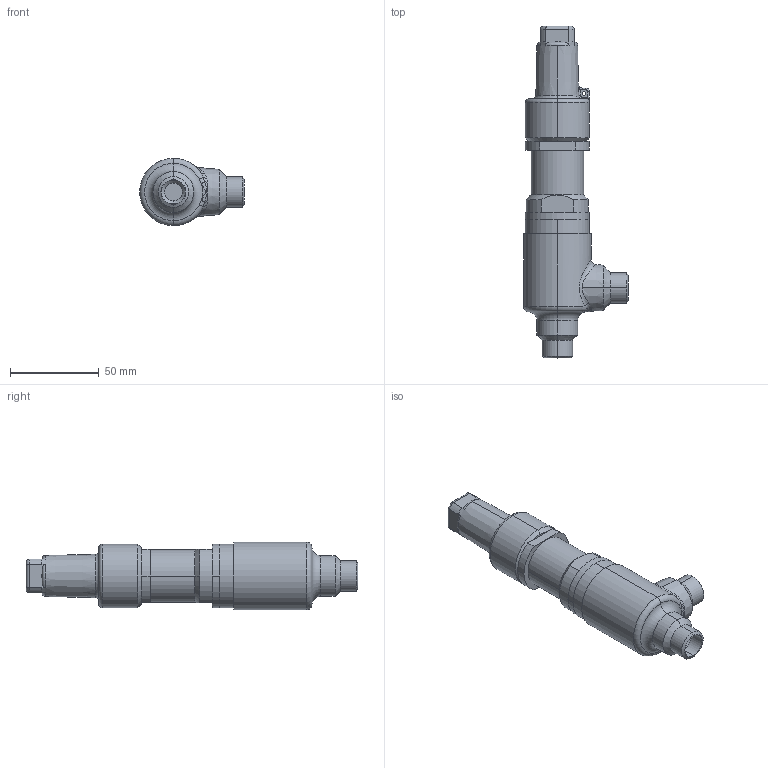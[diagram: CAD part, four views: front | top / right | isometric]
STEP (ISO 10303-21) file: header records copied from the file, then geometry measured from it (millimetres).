
FILE_DESCRIPTION (( 'STEP AP214' ), '1' );
FILE_NAME ('UVUB 42400C08-DN10-10_R1.STEP', '2010-09-10T08:02:11', ( 'Eckhard Grams' ), ( 'AWP Kälte Klima Armaturen GmbH' ), 'SwSTEP 2.0', 'SolidWorks 2002296', '' );
FILE_SCHEMA (( 'AUTOMOTIVE_DESIGN' ));
Length unit declared in the file: millimetre
Products named in the file (6): UVUB 42400C08-DN10-10_R1; Deckel 44551-07-DN 8-15_PS40_Standard; Gehäuse42200E08-DN10-10_PS40_R1_Standard; Klemmring 44551-07-DN 8-15_Standard; Einstellschr 44551-07-8080002_DN 8-15_Standard; Kappe 36302-10_DN6-15 (M27x1)_Standard
Assembly tree (5 placements, depth 2):
  UVUB 42400C08-DN10-10_R1
    Einstellschr 44551-07-8080002_DN 8-15_Standard
    Gehäuse42200E08-DN10-10_PS40_R1_Standard
    Klemmring 44551-07-DN 8-15_Standard
    Kappe 36302-10_DN6-15 (M27x1)_Standard
    Deckel 44551-07-DN 8-15_PS40_Standard
Bounding box: 59 x 187 x 38 mm (x, y, z)
Volume: 110876.8 mm3; surface area: 45947.8 mm2
Topology: 5 solids, 5 shells, 227 faces, 502 edges, 299 vertices
Faces by surface type: cylinder 92, plane 49, cone 39, torus 28, bspline 19
Entity records: 19864 total; most frequent: CARTESIAN_POINT 13948, DIRECTION 1121, ORIENTED_EDGE 1004, EDGE_CURVE 502, AXIS2_PLACEMENT_3D 476, VERTEX_POINT 299, CIRCLE 260, EDGE_LOOP 253
